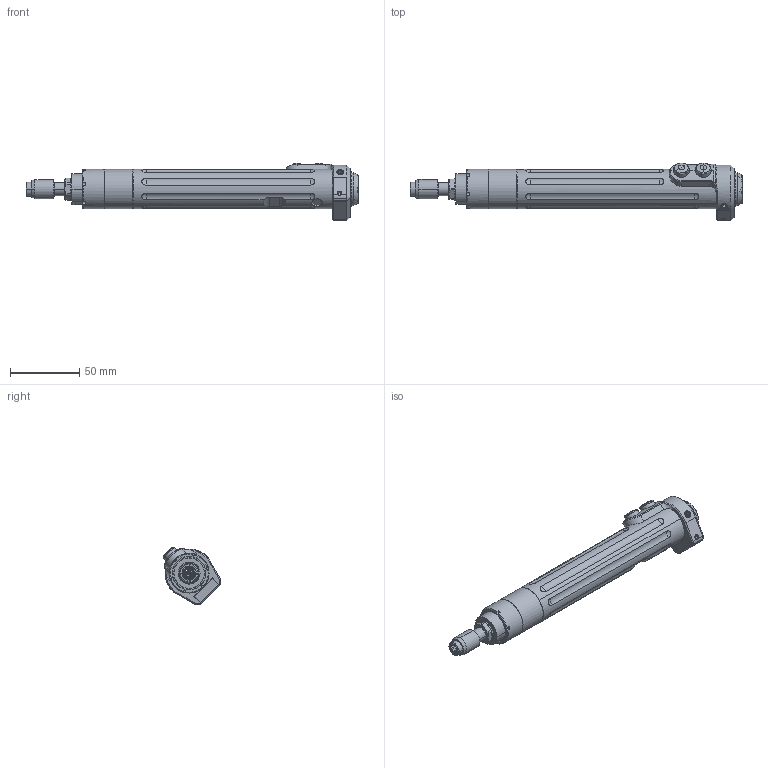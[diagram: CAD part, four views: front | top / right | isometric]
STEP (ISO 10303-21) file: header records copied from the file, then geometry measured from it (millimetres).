
FILE_DESCRIPTION (( 'STEP AP203' ), '1' );
FILE_NAME ('ASG-SD2500-35FX.STEP', '2011-07-20T17:37:04', ( '' ), ( '' ), 'SwSTEP 2.0', 'SolidWorks 2011', '' );
FILE_SCHEMA (( 'CONFIG_CONTROL_DESIGN' ));
Length unit declared in the file: inch
Products named in the file (1): ASG-SD2500-35FX
Bounding box: 240.36 x 41.87 x 41.89 mm (x, y, z)
Surface area: 32359.8 mm2 (no closed solid volume)
Topology: 0 solids, 23 shells, 409 faces, 1155 edges, 761 vertices
Faces by surface type: cylinder 146, plane 104, torus 70, cone 56, bspline 21, sphere 12
Entity records: 15659 total; most frequent: CARTESIAN_POINT 5188, DIRECTION 2226, ORIENTED_EDGE 2050, EDGE_CURVE 1145, AXIS2_PLACEMENT_3D 919, VERTEX_POINT 755, CIRCLE 530, EDGE_LOOP 472
